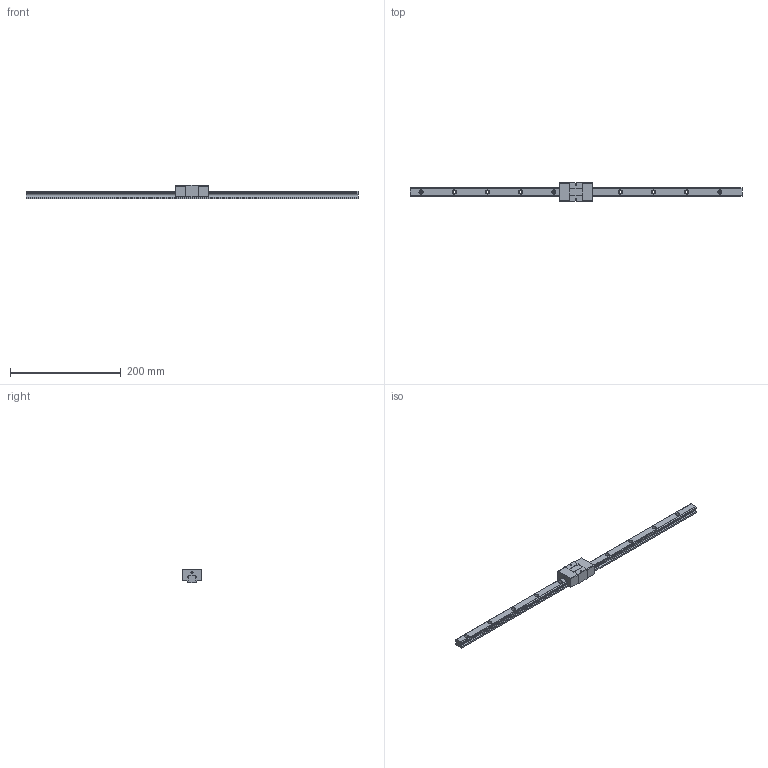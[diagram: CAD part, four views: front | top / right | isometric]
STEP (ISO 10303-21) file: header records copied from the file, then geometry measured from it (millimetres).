
FILE_DESCRIPTION (( 'STEP AP203' ), '1' );
FILE_NAME ('TRS15VS-WZ-§ï.STEP', '2023-08-31T06:55:38', ( '' ), ( '' ), 'SwSTEP 2.0', 'SolidWorks 2022', '' );
FILE_SCHEMA (( 'CONFIG_CONTROL_DESIGN' ));
Length unit declared in the file: millimetre
Products named in the file (1): TRS15VS-WZ-改
Bounding box: 600 x 34 x 24 mm (x, y, z)
Volume: 133823.2 mm3; surface area: 43608.7 mm2
Topology: 1 solids, 1 shells, 171 faces, 460 edges, 304 vertices
Faces by surface type: plane 87, cylinder 84
Entity records: 5515 total; most frequent: DIRECTION 972, CARTESIAN_POINT 936, ORIENTED_EDGE 920, EDGE_CURVE 460, AXIS2_PLACEMENT_3D 340, VERTEX_POINT 304, LINE 292, VECTOR 292
